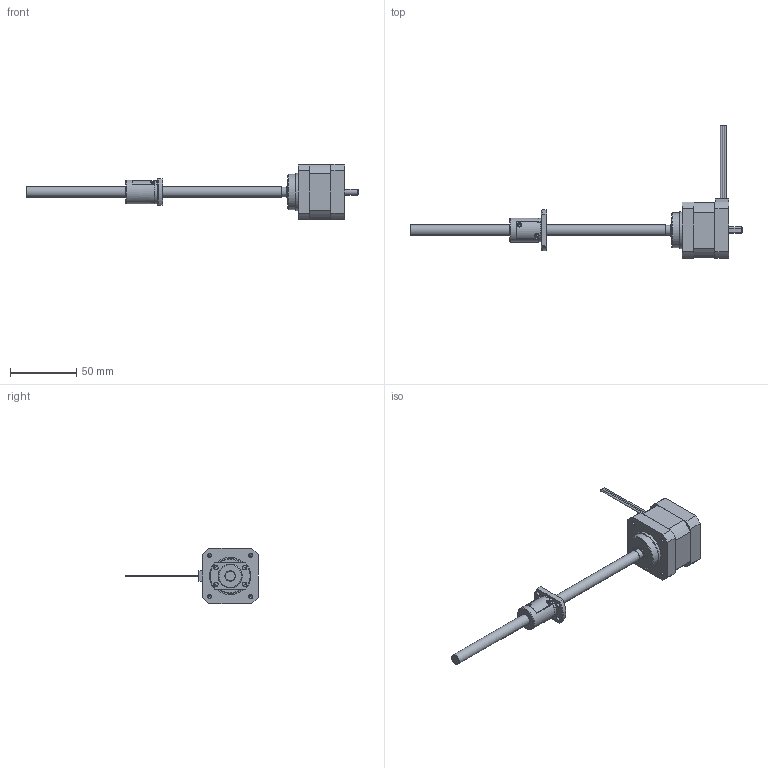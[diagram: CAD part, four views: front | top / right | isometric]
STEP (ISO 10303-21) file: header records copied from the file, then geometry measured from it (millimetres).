
FILE_DESCRIPTION( ( 'STEP AP214' ), ' ' );
FILE_NAME( 'p:/temp/worker_1/3260_1020/app_90_12017090514331848204340260eae72_000000_00_00_000000/format_0/2TMB0805(75).stp', '2017-09-05T12:33:18', ( '' ), ( '' ), ' ', 'PARTsolutions', ' ' );
FILE_SCHEMA( ( 'AUTOMOTIVE_DESIGN { 1 0 10303 214 1 1 1 1 }' ) );
Length unit declared in the file: millimetre
Products named in the file (3): 2TMB0805(75); _2TMB0805 (0)motor; _2TMB0805 (75)nut
Assembly tree (2 placements, depth 2):
  2TMB0805(75)
    _2TMB0805 (0)motor
    _2TMB0805 (75)nut
Bounding box: 250 x 99.5 x 42 mm (x, y, z)
Volume: 80470.1 mm3; surface area: 19378.6 mm2
Topology: 2 solids, 2 shells, 117 faces, 281 edges, 186 vertices
Faces by surface type: plane 54, cylinder 46, cone 17
Full cylindrical faces by diameter (mm): 1.5 x3, 2 x2, 2.459 x4, 3.3 x2, 3.4 x4, 7.3 x1, 8 x2, 17.7 x1, 18 x1, 26.5 x1, 28 x1
Entity records: 4279 total; most frequent: CARTESIAN_POINT 673, DIRECTION 567, ORIENTED_EDGE 466, EDGE_CURVE 233, AXIS2_PLACEMENT_3D 226, EDGE_LOOP 179, VERTEX_POINT 176, FACE_OUTER_BOUND 139
